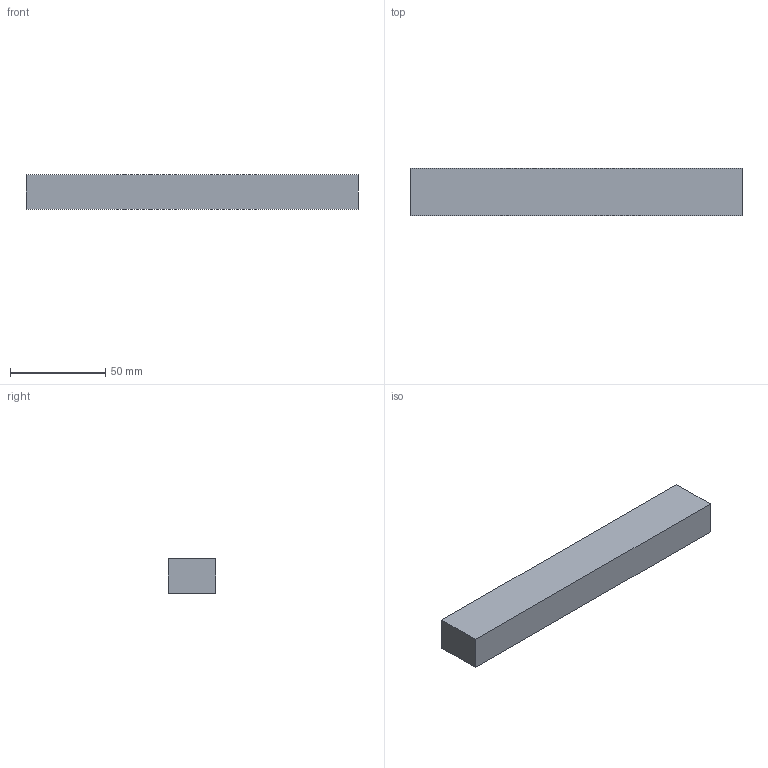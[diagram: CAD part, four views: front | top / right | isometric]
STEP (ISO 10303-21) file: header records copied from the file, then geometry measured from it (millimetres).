
FILE_DESCRIPTION(('Open CASCADE Model'),'2;1');
FILE_NAME('Open CASCADE Shape Model','2026-09-19T23:46:41',('Author'),( 'Open CASCADE'),'Open CASCADE STEP processor 7.9','Open CASCADE 7.9' ,'Unknown');
FILE_SCHEMA(('AUTOMOTIVE_DESIGN { 1 0 10303 214 1 1 1 1 }'));
Length unit declared in the file: millimetre
Products named in the file (1): Open CASCADE STEP translator 7.9 93
Bounding box: 174 x 25 x 18 mm (x, y, z)
Volume: 78300 mm3; surface area: 15864 mm2
Topology: 1 solids, 1 shells, 6 faces, 12 edges, 8 vertices
Faces by surface type: plane 6
Entity records: 322 total; most frequent: CARTESIAN_POINT 51, DIRECTION 50, LINE 36, VECTOR 36, ORIENTED_EDGE 24, PCURVE 24, DEFINITIONAL_REPRESENTATION 24, EDGE_CURVE 12
